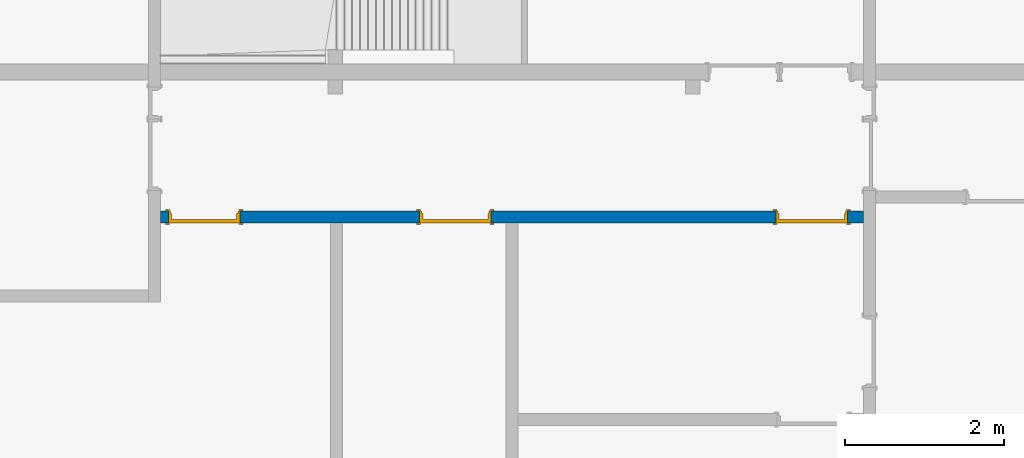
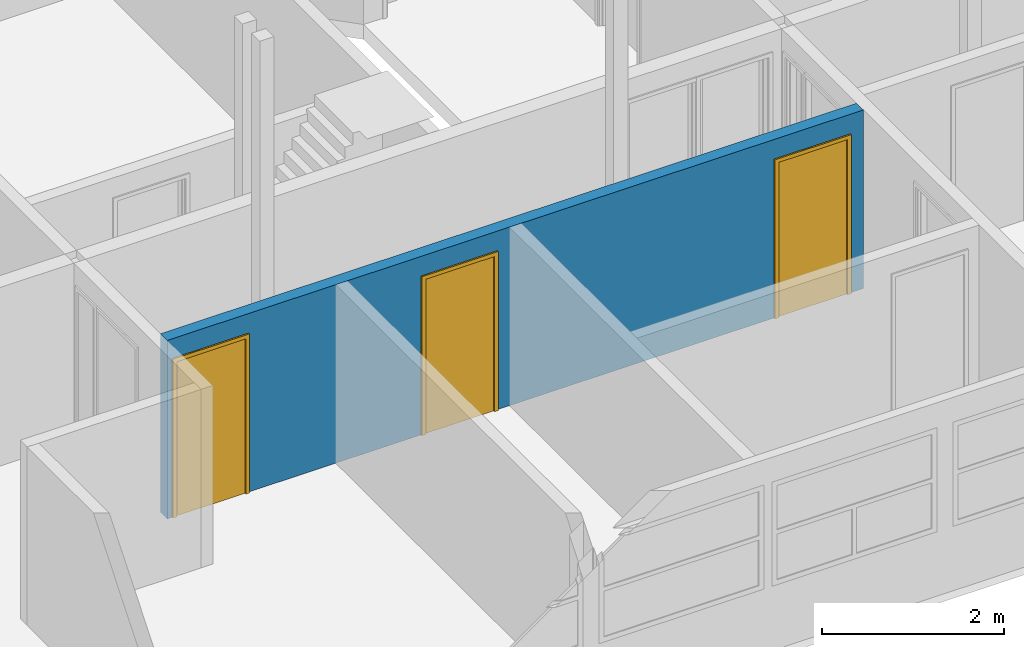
# One storey, part 9 of 48: 3 doors, 1 wall, 3 openings.
"""IFC2X3 building model written with IfcOpenShell, lengths in millimetres."""

from ifc_helpers import new_model, entity, si_unit, converted_unit, derived_unit, money_unit, direction, frame, origin_with_axes, place, context, subcontext, project, spatial, faceted_brep, source, transform, mapped, material, type_object, element, fill, save


model = new_model("IFC2X3")

# Units and contexts
model_context = context("Model", 3, precision=0.01, world=origin_with_axes(), true_north=direction((0.0, 1.0)))
body_context = subcontext(model_context, "Body", "Model", "MODEL_VIEW")
ifc_project = project(units=[si_unit("LENGTHUNIT", "METRE", prefix="MILLI"), si_unit("AREAUNIT", "SQUARE_METRE"), si_unit("VOLUMEUNIT", "CUBIC_METRE"), converted_unit("PLANEANGLEUNIT", "DEGREE", entity("IfcPlaneAngleMeasure", 0.0174532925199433), si_unit("PLANEANGLEUNIT", "RADIAN"), dimensions=[0, 0, 0, 0, 0, 0, 0]), money_unit("USD"), converted_unit("TIMEUNIT", "Year", entity("IfcTimeMeasure", 31557600.0), si_unit("TIMEUNIT", "SECOND"), dimensions=[0, 0, 1, 0, 0, 0, 0]), si_unit("MASSUNIT", "GRAM", prefix="KILO"), si_unit("THERMODYNAMICTEMPERATUREUNIT", "DEGREE_CELSIUS"), si_unit("LUMINOUSINTENSITYUNIT", "LUMEN"), si_unit("ENERGYUNIT", "JOULE", prefix="MEGA"), derived_unit("THERMALCONDUCTANCEUNIT", [(si_unit("POWERUNIT", "WATT"), 1), (si_unit("LENGTHUNIT", "METRE"), -1), (si_unit("THERMODYNAMICTEMPERATUREUNIT", "KELVIN"), -1)]), derived_unit("SPECIFICHEATCAPACITYUNIT", [(si_unit("ENERGYUNIT", "JOULE"), 1), (si_unit("MASSUNIT", "GRAM", prefix="KILO"), -1), (si_unit("THERMODYNAMICTEMPERATUREUNIT", "KELVIN"), -1)]), derived_unit("MASSDENSITYUNIT", [(si_unit("MASSUNIT", "GRAM", prefix="KILO"), 1), (si_unit("VOLUMEUNIT", "CUBIC_METRE"), -1)])], contexts=[model_context])

# Site, building, storey
site_placement = place(None, origin_with_axes())
site = spatial("IfcSite", under=ifc_project, at=site_placement, Name="Site", CompositionType="ELEMENT")
building_placement = place(site_placement, origin_with_axes())
building = spatial("IfcBuilding", under=site, at=building_placement, Name="Building", CompositionType="ELEMENT")
storey_placement = place(building_placement, frame((0.0, 0.0, 3300.0), z_axis=(0.0, 0.0, 1.0), x_axis=(1.0, 0.0, 0.0)))
storey = spatial("IfcBuildingStorey", under=building, at=storey_placement, Name="1 ETG", CompositionType="ELEMENT", Elevation=3300.0)

# Wall, openings, doors
ifc_material = material(Name="GENERIC - INTERNAL FILLER")
wall_type = type_object("IfcWallType", Name="GENERIC - INTERNAL FILLER 150", PredefinedType="NOTDEFINED")
wall_placement = place(storey_placement, frame((15800.00000000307, 12599.7785632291, 0.0), z_axis=(0.0, 0.0, 1.0), x_axis=(1.0, 0.0, 0.0)))
wall = element("IfcWall", 1, at=wall_placement, inside=storey, type_object=wall_type, material=ifc_material, Name="SW - 001", context=body_context, shape_type="Brep", body=[
    faceted_brep([(7750.27029396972, 150.0000000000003, 2100.0), (7750.27029396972, 150.0000000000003, 0.0), (4161.36398088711, 150.0000000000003, 0.0), (4161.36398088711, 150.0000000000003, 2100.0), (3261.363980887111, 150.0000000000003, 2100.0), (3261.363980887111, 150.0000000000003, 0.0), (998.7254421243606, 150.0000000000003, 0.0), (998.7254421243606, 150.0000000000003, 2100.0), (98.72544212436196, 150.0000000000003, 2100.0), (98.72544212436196, 150.0000000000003, 0.0), (0.0, 150.0000000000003, 0.0), (0.0, 150.0000000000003, 2400.0), (8850.266212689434, 150.0000000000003, 2400.0), (8850.266212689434, 150.0000000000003, 0.0), (8650.27029396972, 150.0000000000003, 0.0), (8650.27029396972, 150.0000000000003, 2100.0), (7750.27029396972, 0.0, 2100.0), (7750.27029396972, 0.0, 0.0), (4161.36398088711, 0.0, 0.0), (4161.36398088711, 0.0, 2100.0), (3261.363980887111, 0.0, 2100.0), (3261.363980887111, 0.0, 0.0), (998.7254421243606, 0.0, 0.0), (998.7254421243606, 0.0, 2100.0), (98.72544212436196, 0.0, 2100.0), (98.72544212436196, 0.0, 0.0), (0.0, 0.0, 0.0), (0.0, 0.0, 2400.0), (8850.266212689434, 0.0, 2400.0), (8850.266212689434, 0.0, 0.0), (8650.27029396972, 0.0, 0.0), (8650.27029396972, 0.0, 2100.0)], [[[0, 1, 2, 3, 4, 5, 6, 7, 8, 9, 10, 11, 12, 13, 14, 15]], [[1, 0, 16, 17]], [[1, 17, 18, 2]], [[2, 18, 19, 3]], [[3, 19, 20, 4]], [[4, 20, 21, 5]], [[21, 22, 6, 5]], [[22, 23, 7, 6]], [[23, 24, 8, 7]], [[24, 25, 9, 8]], [[26, 10, 9, 25]], [[27, 11, 10, 26]], [[27, 28, 12, 11]], [[28, 29, 13, 12]], [[30, 14, 13, 29]], [[15, 14, 30, 31]], [[0, 15, 31, 16]], [[31, 30, 29, 28, 27, 26, 25, 24, 23, 22, 21, 20, 19, 18, 17, 16]]]),
])
opening_1_placement = place(wall_placement, frame((548.7254421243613, 0.0, 0.0), z_axis=(0.0, 0.0, 1.0), x_axis=(1.0, 0.0, 0.0)))
opening_1 = element("IfcOpeningElement", 2, at=opening_1_placement, cuts=wall, Name="DOO - 002", context=body_context, shape_type="Brep", body=[
    faceted_brep([(-449.9999999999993, 0.0, 2100.0), (449.9999999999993, 0.0, 2100.0), (449.9999999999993, 150.0000000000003, 2100.0), (-449.9999999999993, 150.0000000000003, 2100.0), (449.9999999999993, 0.0, 0.0), (-449.9999999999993, 0.0, 0.0), (-487.0000000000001, 0.0, 0.0), (-487.0000000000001, 0.0, 2137.0), (486.9999999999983, 0.0, 2137.0), (486.9999999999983, 0.0, 0.0), (449.9999999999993, 150.0000000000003, 0.0), (486.9999999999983, 150.0000000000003, 0.0), (486.9999999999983, 150.0000000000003, 2137.0), (-487.0000000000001, 150.0000000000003, 2137.0), (-487.0000000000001, 150.0000000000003, 0.0), (-449.9999999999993, 150.0000000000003, 0.0), (-449.9999999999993, -0.9999999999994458, 0.0), (-487.0000000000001, -0.9999999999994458, 0.0), (-487.0000000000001, -0.9999999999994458, 2137.0), (486.9999999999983, -0.9999999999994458, 2137.0), (486.9999999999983, -0.9999999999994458, 0.0), (449.9999999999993, -0.9999999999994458, 0.0), (-449.9999999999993, 150.9999999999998, 0.0), (449.9999999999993, 150.9999999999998, 0.0), (486.9999999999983, 150.9999999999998, 0.0), (486.9999999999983, 150.9999999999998, 2137.0), (-487.0000000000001, 150.9999999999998, 2137.0), (-487.0000000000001, 150.9999999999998, 0.0), (-449.9999999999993, -0.9999999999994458, 2100.0), (449.9999999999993, -0.9999999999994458, 2100.0)], [[[0, 1, 2, 3]], [[4, 1, 0, 5, 6, 7, 8, 9]], [[1, 4, 10, 2]], [[3, 2, 10, 11, 12, 13, 14, 15]], [[5, 0, 3, 15]], [[5, 16, 17, 6]], [[7, 6, 17, 18]], [[8, 7, 18, 19]], [[9, 8, 19, 20]], [[21, 4, 9, 20]], [[16, 5, 15, 22, 23, 10, 4, 21]], [[10, 23, 24, 11]], [[12, 11, 24, 25]], [[13, 12, 25, 26]], [[14, 13, 26, 27]], [[22, 15, 14, 27]], [[28, 29, 21, 20, 19, 18, 17, 16]], [[23, 22, 27, 26, 25, 24]], [[28, 16, 21, 29]]]),
])
opening_2_placement = place(wall_placement, frame((8200.27029396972, 0.0, 0.0), z_axis=(0.0, 0.0, 1.0), x_axis=(1.0, 0.0, 0.0)))
opening_2 = element("IfcOpeningElement", 3, at=opening_2_placement, cuts=wall, Name="DOO - 002", context=body_context, shape_type="Brep", body=[
    faceted_brep([(-449.9999999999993, 0.0, 2100.0), (449.9999999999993, 0.0, 2100.0), (449.9999999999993, 150.0000000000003, 2100.0), (-449.9999999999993, 150.0000000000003, 2100.0), (449.9999999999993, 0.0, 0.0), (-449.9999999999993, 0.0, 0.0), (-486.9999999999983, 0.0, 0.0), (-486.9999999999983, 0.0, 2137.0), (486.9999999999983, 0.0, 2137.0), (486.9999999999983, 0.0, 0.0), (449.9999999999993, 150.0000000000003, 0.0), (486.9999999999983, 150.0000000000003, 0.0), (486.9999999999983, 150.0000000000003, 2137.0), (-486.9999999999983, 150.0000000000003, 2137.0), (-486.9999999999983, 150.0000000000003, 0.0), (-449.9999999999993, 150.0000000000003, 0.0), (-449.9999999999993, -0.9999999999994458, 0.0), (-486.9999999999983, -0.9999999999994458, 0.0), (-486.9999999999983, -0.9999999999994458, 2137.0), (486.9999999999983, -0.9999999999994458, 2137.0), (486.9999999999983, -0.9999999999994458, 0.0), (449.9999999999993, -0.9999999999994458, 0.0), (-449.9999999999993, 150.9999999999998, 0.0), (449.9999999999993, 150.9999999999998, 0.0), (486.9999999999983, 150.9999999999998, 0.0), (486.9999999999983, 150.9999999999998, 2137.0), (-486.9999999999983, 150.9999999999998, 2137.0), (-486.9999999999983, 150.9999999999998, 0.0), (-449.9999999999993, -0.9999999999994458, 2100.0), (449.9999999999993, -0.9999999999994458, 2100.0)], [[[0, 1, 2, 3]], [[4, 1, 0, 5, 6, 7, 8, 9]], [[1, 4, 10, 2]], [[3, 2, 10, 11, 12, 13, 14, 15]], [[5, 0, 3, 15]], [[5, 16, 17, 6]], [[7, 6, 17, 18]], [[8, 7, 18, 19]], [[9, 8, 19, 20]], [[21, 4, 9, 20]], [[16, 5, 15, 22, 23, 10, 4, 21]], [[10, 23, 24, 11]], [[12, 11, 24, 25]], [[13, 12, 25, 26]], [[14, 13, 26, 27]], [[22, 15, 14, 27]], [[28, 29, 21, 20, 19, 18, 17, 16]], [[23, 22, 27, 26, 25, 24]], [[28, 16, 21, 29]]]),
])
opening_3_placement = place(wall_placement, frame((3711.363980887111, 0.0, 0.0), z_axis=(0.0, 0.0, 1.0), x_axis=(1.0, 0.0, 0.0)))
opening_3 = element("IfcOpeningElement", 4, at=opening_3_placement, cuts=wall, Name="DOO - 002", context=body_context, shape_type="Brep", body=[
    faceted_brep([(-449.9999999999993, 0.0, 2100.0), (449.9999999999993, 0.0, 2100.0), (449.9999999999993, 150.0000000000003, 2100.0), (-449.9999999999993, 150.0000000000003, 2100.0), (449.9999999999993, 0.0, 0.0), (-449.9999999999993, 0.0, 0.0), (-486.9999999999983, 0.0, 0.0), (-486.9999999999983, 0.0, 2137.0), (486.9999999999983, 0.0, 2137.0), (486.9999999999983, 0.0, 0.0), (449.9999999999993, 150.0000000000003, 0.0), (486.9999999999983, 150.0000000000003, 0.0), (486.9999999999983, 150.0000000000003, 2137.0), (-486.9999999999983, 150.0000000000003, 2137.0), (-486.9999999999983, 150.0000000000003, 0.0), (-449.9999999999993, 150.0000000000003, 0.0), (-449.9999999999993, -0.9999999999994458, 0.0), (-486.9999999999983, -0.9999999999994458, 0.0), (-486.9999999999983, -0.9999999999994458, 2137.0), (486.9999999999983, -0.9999999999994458, 2137.0), (486.9999999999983, -0.9999999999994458, 0.0), (449.9999999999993, -0.9999999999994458, 0.0), (-449.9999999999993, 150.9999999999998, 0.0), (449.9999999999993, 150.9999999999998, 0.0), (486.9999999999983, 150.9999999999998, 0.0), (486.9999999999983, 150.9999999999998, 2137.0), (-486.9999999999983, 150.9999999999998, 2137.0), (-486.9999999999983, 150.9999999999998, 0.0), (-449.9999999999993, -0.9999999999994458, 2100.0), (449.9999999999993, -0.9999999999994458, 2100.0)], [[[0, 1, 2, 3]], [[4, 1, 0, 5, 6, 7, 8, 9]], [[1, 4, 10, 2]], [[3, 2, 10, 11, 12, 13, 14, 15]], [[5, 0, 3, 15]], [[5, 16, 17, 6]], [[7, 6, 17, 18]], [[8, 7, 18, 19]], [[9, 8, 19, 20]], [[21, 4, 9, 20]], [[16, 5, 15, 22, 23, 10, 4, 21]], [[10, 23, 24, 11]], [[12, 11, 24, 25]], [[13, 12, 25, 26]], [[14, 13, 26, 27]], [[22, 15, 14, 27]], [[28, 29, 21, 20, 19, 18, 17, 16]], [[23, 22, 27, 26, 25, 24]], [[28, 16, 21, 29]]]),
])
door_style_1 = type_object("IfcDoorStyle", Name="Dør", ConstructionType="NOTDEFINED", OperationType="SINGLE_SWING_RIGHT", ParameterTakesPrecedence=False, Sizeable=False)
shared_shape_1 = source(origin_with_axes(), body_context, "Body", "Brep", [
    faceted_brep([(-450.0, -115.0, 0.0), (-425.0, -115.0, 0.0), (-425.0, -150.0, 0.0), (-450.0, -150.0, 0.0), (-450.0, -115.0000000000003, 2100.0), (-425.0, -115.0000000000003, 2075.0), (-425.0, -150.0000000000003, 2075.0), (-450.0, -150.0000000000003, 2100.0)], [[[0, 1, 2, 3]], [[0, 4, 5, 1]], [[1, 5, 6, 2]], [[3, 2, 6, 7]], [[4, 0, 3, 7]], [[5, 4, 7, 6]]]),
    faceted_brep([(450.0, -115.0000000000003, 2100.0), (425.0, -115.0000000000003, 2075.0), (425.0, -150.0000000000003, 2075.0), (450.0, -150.0000000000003, 2100.0), (450.0, -115.0, 0.0), (425.0, -115.0, 0.0), (425.0, -150.0, 0.0), (450.0, -150.0, 0.0)], [[[0, 1, 2, 3]], [[0, 4, 5, 1]], [[1, 5, 6, 2]], [[3, 2, 6, 7]], [[4, 0, 3, 7]], [[5, 4, 7, 6]]]),
    faceted_brep([(-425.0, -115.0000000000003, 2075.0), (425.0, -115.0000000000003, 2075.0), (425.0, -150.0000000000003, 2075.0), (-425.0, -150.0000000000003, 2075.0), (-450.0, -115.0000000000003, 2100.0), (450.0, -115.0000000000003, 2100.0), (450.0, -150.0000000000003, 2100.0), (-450.0, -150.0000000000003, 2100.0)], [[[0, 1, 2, 3]], [[0, 4, 5, 1]], [[1, 5, 6, 2]], [[3, 2, 6, 7]], [[4, 0, 3, 7]], [[5, 4, 7, 6]]]),
    faceted_brep([(-487.0, -169.0, 0.0), (-487.0, -150.0, 0.0), (-437.0, -150.0, 0.0), (-437.0, -169.0, 0.0), (-487.0, -169.0000000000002, 2137.0), (-487.0, -150.0000000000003, 2137.0), (-437.0, -150.0000000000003, 2087.0), (-437.0, -169.0000000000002, 2087.0)], [[[0, 1, 2, 3]], [[4, 5, 1, 0]], [[1, 5, 6, 2]], [[3, 2, 6, 7]], [[0, 3, 7, 4]], [[7, 6, 5, 4]]]),
    faceted_brep([(487.0, -169.0000000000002, 2137.0), (487.0, -150.0000000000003, 2137.0), (437.0, -150.0000000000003, 2087.0), (437.0, -169.0000000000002, 2087.0), (487.0, -169.0, 0.0), (487.0, -150.0, 0.0), (437.0, -150.0, 0.0), (437.0, -169.0, 0.0)], [[[0, 1, 2, 3]], [[4, 5, 1, 0]], [[1, 5, 6, 2]], [[3, 2, 6, 7]], [[0, 3, 7, 4]], [[7, 6, 5, 4]]]),
    faceted_brep([(-487.0, -169.0000000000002, 2137.0), (-487.0, -150.0000000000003, 2137.0), (-437.0, -150.0000000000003, 2087.0), (-437.0, -169.0000000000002, 2087.0), (487.0, -169.0000000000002, 2137.0), (487.0, -150.0000000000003, 2137.0), (437.0, -150.0000000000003, 2087.0), (437.0, -169.0000000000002, 2087.0)], [[[0, 1, 2, 3]], [[4, 5, 1, 0]], [[1, 5, 6, 2]], [[3, 2, 6, 7]], [[0, 3, 7, 4]], [[7, 6, 5, 4]]]),
    faceted_brep([(-487.0, 19.0, 0.0), (-437.0, 19.0, 0.0), (-437.0, 0.0, 0.0), (-487.0, 0.0, 0.0), (-487.0, 18.99999999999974, 2137.0), (-437.0, 18.99999999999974, 2087.0), (-437.0, 0.0, 2087.0), (-487.0, 0.0, 2137.0)], [[[0, 1, 2, 3]], [[0, 4, 5, 1]], [[1, 5, 6, 2]], [[3, 2, 6, 7]], [[4, 0, 3, 7]], [[5, 4, 7, 6]]]),
    faceted_brep([(487.0, 18.99999999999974, 2137.0), (437.0, 18.99999999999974, 2087.0), (437.0, 0.0, 2087.0), (487.0, 0.0, 2137.0), (487.0, 19.0, 0.0), (437.0, 19.0, 0.0), (437.0, 0.0, 0.0), (487.0, 0.0, 0.0)], [[[0, 1, 2, 3]], [[0, 4, 5, 1]], [[1, 5, 6, 2]], [[3, 2, 6, 7]], [[4, 0, 3, 7]], [[5, 4, 7, 6]]]),
    faceted_brep([(-487.0, 18.99999999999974, 2137.0), (-437.0, 18.99999999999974, 2087.0), (-437.0, 0.0, 2087.0), (-487.0, 0.0, 2137.0), (487.0, 18.99999999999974, 2137.0), (437.0, 18.99999999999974, 2087.0), (437.0, 0.0, 2087.0), (487.0, 0.0, 2137.0)], [[[0, 1, 2, 3]], [[0, 4, 5, 1]], [[1, 5, 6, 2]], [[3, 2, 6, 7]], [[4, 0, 3, 7]], [[5, 4, 7, 6]]]),
    faceted_brep([(-450.0, 0.0, 0.0), (-410.0000000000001, 0.0, 0.0), (-410.0000000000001, -115.0, 0.0), (-450.0, -115.0, 0.0), (-450.0, 0.0, 2060.0), (-410.0000000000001, 0.0, 2060.0), (-410.0000000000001, -115.0, 2060.0), (-450.0, -115.0, 2060.0)], [[[0, 1, 2, 3]], [[0, 4, 5, 1]], [[1, 5, 6, 2]], [[3, 2, 6, 7]], [[4, 0, 3, 7]], [[5, 4, 7, 6]]]),
    faceted_brep([(450.0, 0.0, 0.0), (450.0, 0.0, 2060.0), (450.0, -115.0, 2060.0), (450.0, -115.0, 0.0), (410.0000000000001, 0.0, 0.0), (410.0000000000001, 0.0, 2060.0), (410.0000000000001, -115.0, 2060.0), (410.0000000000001, -115.0, 0.0)], [[[0, 1, 2, 3]], [[0, 4, 5, 1]], [[1, 5, 6, 2]], [[3, 2, 6, 7]], [[4, 0, 3, 7]], [[5, 4, 7, 6]]]),
    faceted_brep([(-450.0, 0.0, 2100.0), (-450.0, 0.0, 2060.0), (-450.0, -115.0, 2060.0), (-450.0, -115.0, 2100.0), (450.0, 0.0, 2100.0), (450.0, 0.0, 2060.0), (410.0000000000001, 0.0, 2060.0), (-410.0000000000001, 0.0, 2060.0), (-410.0000000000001, -115.0, 2060.0), (410.0000000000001, -115.0, 2060.0), (450.0, -115.0, 2060.0), (450.0, -115.0, 2100.0)], [[[0, 1, 2, 3]], [[0, 4, 5, 6, 7, 1]], [[1, 7, 8, 2]], [[3, 2, 8, 9, 10, 11]], [[4, 0, 3, 11]], [[5, 4, 11, 10]], [[6, 5, 10, 9]], [[7, 6, 9, 8]]]),
    faceted_brep([(409.9999999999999, 0.0, 0.0), (409.9999999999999, -40.0, 0.0), (-410.0000000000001, -40.0, 0.0), (-410.0000000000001, 0.0, 0.0), (409.9999999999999, 0.0, 2060.0), (409.9999999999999, -40.00000000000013, 2060.0), (-410.0000000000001, -40.00000000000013, 2060.0), (-410.0000000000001, 0.0, 2060.0)], [[[0, 1, 2, 3]], [[4, 5, 1, 0]], [[1, 5, 6, 2]], [[3, 2, 6, 7]], [[0, 3, 7, 4]], [[7, 6, 5, 4]]]),
])
door_1_placement = place(opening_1_placement, frame((449.9999999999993, 0.0, 0.0), z_axis=(0.0, 0.0, 1.0), x_axis=(-1.0, 0.0, 0.0)))
door_1 = element("IfcDoor", 5, at=door_1_placement, inside=storey, type_object=door_style_1, Name="DOO - 002", ObjectType="DOOR", OverallHeight=2100.0, OverallWidth=900.0, context=body_context, shape_type="MappedRepresentation", body=[
    mapped(shared_shape_1, transform((449.9999999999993, 0.0, 0.0))),
])
fill(opening_1, door_1)
door_style_2 = type_object("IfcDoorStyle", Name="Dør", ConstructionType="NOTDEFINED", OperationType="SINGLE_SWING_LEFT", ParameterTakesPrecedence=False, Sizeable=False)
shared_shape_2 = source(origin_with_axes(), body_context, "Body", "Brep", [
    faceted_brep([(450.0, -115.0, 0.0), (450.0, -150.0, 0.0), (425.0, -150.0, 0.0), (425.0, -115.0, 0.0), (450.0, -115.0000000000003, 2100.0), (450.0, -150.0000000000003, 2100.0), (425.0, -150.0000000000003, 2075.0), (425.0, -115.0000000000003, 2075.0)], [[[0, 1, 2, 3]], [[4, 5, 1, 0]], [[1, 5, 6, 2]], [[3, 2, 6, 7]], [[0, 3, 7, 4]], [[7, 6, 5, 4]]]),
    faceted_brep([(-450.0, -115.0000000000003, 2100.0), (-450.0, -150.0000000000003, 2100.0), (-425.0, -150.0000000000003, 2075.0), (-425.0, -115.0000000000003, 2075.0), (-450.0, -115.0, 0.0), (-450.0, -150.0, 0.0), (-425.0, -150.0, 0.0), (-425.0, -115.0, 0.0)], [[[0, 1, 2, 3]], [[4, 5, 1, 0]], [[1, 5, 6, 2]], [[3, 2, 6, 7]], [[0, 3, 7, 4]], [[7, 6, 5, 4]]]),
    faceted_brep([(425.0, -115.0000000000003, 2075.0), (425.0, -150.0000000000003, 2075.0), (-425.0, -150.0000000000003, 2075.0), (-425.0, -115.0000000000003, 2075.0), (450.0, -115.0000000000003, 2100.0), (450.0, -150.0000000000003, 2100.0), (-450.0, -150.0000000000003, 2100.0), (-450.0, -115.0000000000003, 2100.0)], [[[0, 1, 2, 3]], [[4, 5, 1, 0]], [[1, 5, 6, 2]], [[3, 2, 6, 7]], [[0, 3, 7, 4]], [[7, 6, 5, 4]]]),
    faceted_brep([(487.0, -169.0, 0.0), (437.0, -169.0, 0.0), (437.0, -150.0, 0.0), (487.0, -150.0, 0.0), (487.0, -169.0000000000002, 2137.0), (437.0, -169.0000000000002, 2087.0), (437.0, -150.0000000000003, 2087.0), (487.0, -150.0000000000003, 2137.0)], [[[0, 1, 2, 3]], [[0, 4, 5, 1]], [[1, 5, 6, 2]], [[3, 2, 6, 7]], [[4, 0, 3, 7]], [[5, 4, 7, 6]]]),
    faceted_brep([(-487.0, -169.0000000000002, 2137.0), (-437.0, -169.0000000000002, 2087.0), (-437.0, -150.0000000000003, 2087.0), (-487.0, -150.0000000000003, 2137.0), (-487.0, -169.0, 0.0), (-437.0, -169.0, 0.0), (-437.0, -150.0, 0.0), (-487.0, -150.0, 0.0)], [[[0, 1, 2, 3]], [[0, 4, 5, 1]], [[1, 5, 6, 2]], [[3, 2, 6, 7]], [[4, 0, 3, 7]], [[5, 4, 7, 6]]]),
    faceted_brep([(487.0, -169.0000000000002, 2137.0), (437.0, -169.0000000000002, 2087.0), (437.0, -150.0000000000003, 2087.0), (487.0, -150.0000000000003, 2137.0), (-487.0, -169.0000000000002, 2137.0), (-437.0, -169.0000000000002, 2087.0), (-437.0, -150.0000000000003, 2087.0), (-487.0, -150.0000000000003, 2137.0)], [[[0, 1, 2, 3]], [[0, 4, 5, 1]], [[1, 5, 6, 2]], [[3, 2, 6, 7]], [[4, 0, 3, 7]], [[5, 4, 7, 6]]]),
    faceted_brep([(487.0, 19.0, 0.0), (487.0, 0.0, 0.0), (437.0, 0.0, 0.0), (437.0, 19.0, 0.0), (487.0, 18.99999999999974, 2137.0), (487.0, 0.0, 2137.0), (437.0, 0.0, 2087.0), (437.0, 18.99999999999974, 2087.0)], [[[0, 1, 2, 3]], [[4, 5, 1, 0]], [[1, 5, 6, 2]], [[3, 2, 6, 7]], [[0, 3, 7, 4]], [[7, 6, 5, 4]]]),
    faceted_brep([(-487.0, 18.99999999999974, 2137.0), (-487.0, 0.0, 2137.0), (-437.0, 0.0, 2087.0), (-437.0, 18.99999999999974, 2087.0), (-487.0, 19.0, 0.0), (-487.0, 0.0, 0.0), (-437.0, 0.0, 0.0), (-437.0, 19.0, 0.0)], [[[0, 1, 2, 3]], [[4, 5, 1, 0]], [[1, 5, 6, 2]], [[3, 2, 6, 7]], [[0, 3, 7, 4]], [[7, 6, 5, 4]]]),
    faceted_brep([(487.0, 18.99999999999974, 2137.0), (487.0, 0.0, 2137.0), (437.0, 0.0, 2087.0), (437.0, 18.99999999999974, 2087.0), (-487.0, 18.99999999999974, 2137.0), (-487.0, 0.0, 2137.0), (-437.0, 0.0, 2087.0), (-437.0, 18.99999999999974, 2087.0)], [[[0, 1, 2, 3]], [[4, 5, 1, 0]], [[1, 5, 6, 2]], [[3, 2, 6, 7]], [[0, 3, 7, 4]], [[7, 6, 5, 4]]]),
    faceted_brep([(450.0, 0.0, 0.0), (450.0, -115.0, 0.0), (410.0000000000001, -115.0, 0.0), (410.0000000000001, 0.0, 0.0), (450.0, 0.0, 2060.0), (450.0, -115.0, 2060.0), (410.0000000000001, -115.0, 2060.0), (410.0000000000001, 0.0, 2060.0)], [[[0, 1, 2, 3]], [[4, 5, 1, 0]], [[1, 5, 6, 2]], [[3, 2, 6, 7]], [[0, 3, 7, 4]], [[7, 6, 5, 4]]]),
    faceted_brep([(-450.0, 0.0, 0.0), (-450.0, -115.0, 0.0), (-450.0, -115.0, 2060.0), (-450.0, 0.0, 2060.0), (-410.0000000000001, 0.0, 0.0), (-410.0000000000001, -115.0, 0.0), (-410.0000000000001, -115.0, 2060.0), (-410.0000000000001, 0.0, 2060.0)], [[[0, 1, 2, 3]], [[4, 5, 1, 0]], [[1, 5, 6, 2]], [[3, 2, 6, 7]], [[0, 3, 7, 4]], [[7, 6, 5, 4]]]),
    faceted_brep([(450.0, 0.0, 2100.0), (450.0, -115.0, 2100.0), (450.0, -115.0, 2060.0), (450.0, 0.0, 2060.0), (-450.0, 0.0, 2100.0), (-450.0, -115.0, 2100.0), (-450.0, -115.0, 2060.0), (-410.0000000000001, -115.0, 2060.0), (410.0000000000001, -115.0, 2060.0), (410.0000000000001, 0.0, 2060.0), (-410.0000000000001, 0.0, 2060.0), (-450.0, 0.0, 2060.0)], [[[0, 1, 2, 3]], [[4, 5, 1, 0]], [[1, 5, 6, 7, 8, 2]], [[3, 2, 8, 9]], [[0, 3, 9, 10, 11, 4]], [[11, 6, 5, 4]], [[10, 7, 6, 11]], [[9, 8, 7, 10]]]),
    faceted_brep([(-409.9999999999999, 0.0, 0.0), (410.0000000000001, 0.0, 0.0), (410.0000000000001, -40.0, 0.0), (-409.9999999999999, -40.0, 0.0), (-409.9999999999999, 0.0, 2060.0), (410.0000000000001, 0.0, 2060.0), (410.0000000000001, -40.00000000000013, 2060.0), (-409.9999999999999, -40.00000000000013, 2060.0)], [[[0, 1, 2, 3]], [[0, 4, 5, 1]], [[1, 5, 6, 2]], [[3, 2, 6, 7]], [[4, 0, 3, 7]], [[5, 4, 7, 6]]]),
])
door_2_placement = place(opening_2_placement, frame((449.9999999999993, 0.0, 0.0), z_axis=(0.0, 0.0, 1.0), x_axis=(-1.0, 0.0, 0.0)))
door_2 = element("IfcDoor", 6, at=door_2_placement, inside=storey, type_object=door_style_2, Name="DOO - 002", ObjectType="DOOR", OverallHeight=2100.0, OverallWidth=900.0, context=body_context, shape_type="MappedRepresentation", body=[
    mapped(shared_shape_2, transform((449.9999999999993, 0.0, 0.0))),
])
fill(opening_2, door_2)
door_3_placement = place(opening_3_placement, frame((449.9999999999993, 0.0, 0.0), z_axis=(0.0, 0.0, 1.0), x_axis=(-1.0, 0.0, 0.0)))
door_3 = element("IfcDoor", 7, at=door_3_placement, inside=storey, type_object=door_style_2, Name="DOO - 002", ObjectType="DOOR", OverallHeight=2100.0, OverallWidth=900.0, context=body_context, shape_type="MappedRepresentation", body=[
    mapped(shared_shape_2, transform((449.9999999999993, 0.0, 0.0))),
])
fill(opening_3, door_3)

save(model, "model.ifc")
